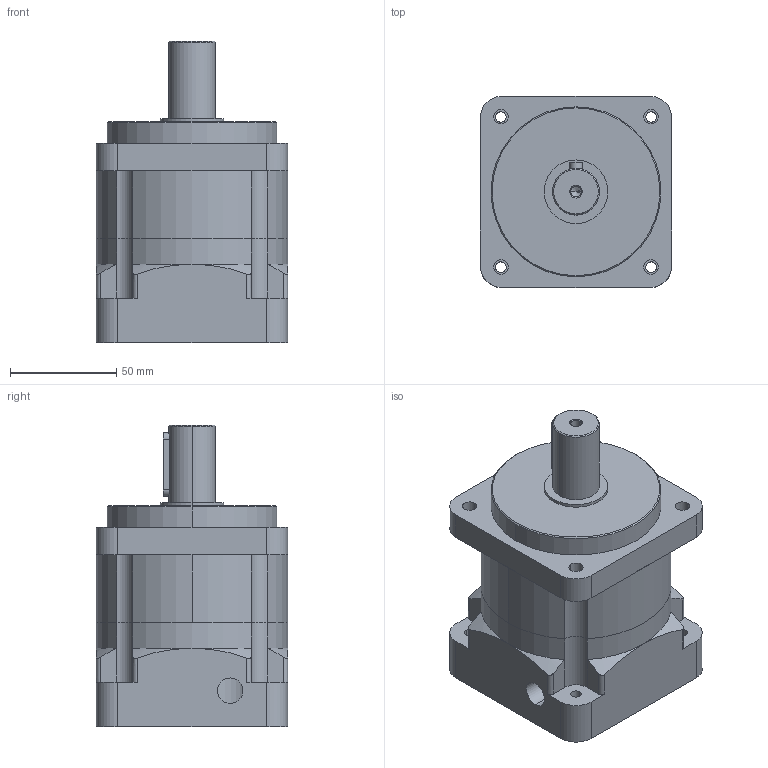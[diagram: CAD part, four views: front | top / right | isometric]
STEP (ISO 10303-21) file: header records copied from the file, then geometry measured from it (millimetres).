
FILE_DESCRIPTION (( 'STEP AP203' ), '1' );
FILE_NAME ('SL-090-005.STEP', '2010-05-19T15:57:30', ( 'render' ), ( '' ), 'SwSTEP 2.0', 'SolidWorks 2009', '' );
FILE_SCHEMA (( 'CONFIG_CONTROL_DESIGN' ));
Length unit declared in the file: millimetre
Products named in the file (1): SL-090-005
Bounding box: 90 x 90 x 142 mm (x, y, z)
Volume: 640306.5 mm3; surface area: 107173.4 mm2
Topology: 5 solids, 5 shells, 134 faces, 338 edges, 220 vertices
Faces by surface type: cylinder 76, plane 42, cone 8, sphere 8
Entity records: 4476 total; most frequent: CARTESIAN_POINT 1038, DIRECTION 745, ORIENTED_EDGE 672, EDGE_CURVE 336, AXIS2_PLACEMENT_3D 297, VERTEX_POINT 220, CIRCLE 162, EDGE_LOOP 162
